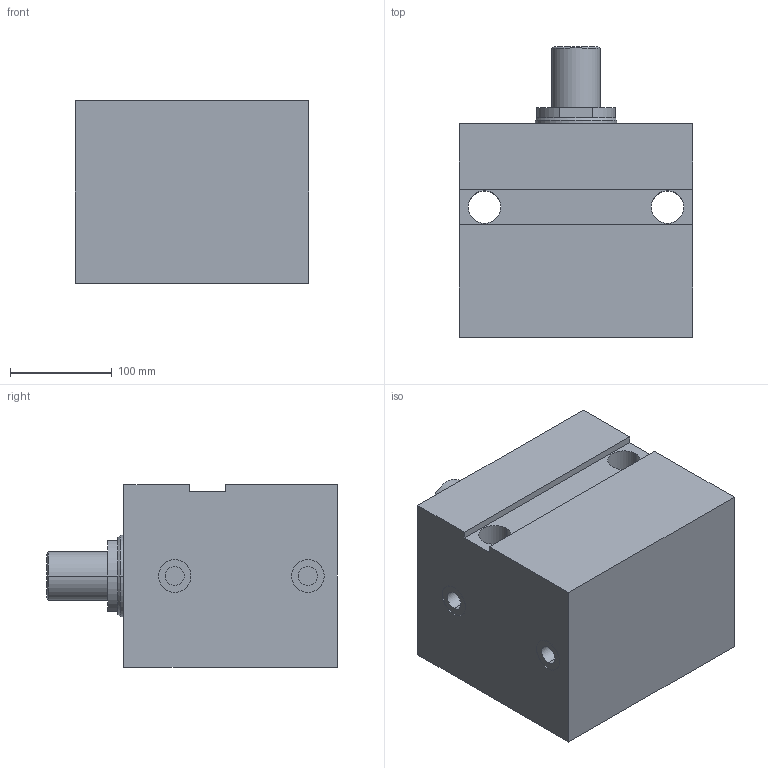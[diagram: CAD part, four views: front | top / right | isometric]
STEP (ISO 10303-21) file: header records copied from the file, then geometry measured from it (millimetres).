
FILE_DESCRIPTION (( 'STEP AP203' ), '1' );
FILE_NAME ('GERMA_Blockzylinder_602-125-100-A.STEP', '2016-04-06T16:07:16', ( '' ), ( '' ), 'SwSTEP 2.0', 'SolidWorks 2015', '' );
FILE_SCHEMA (( 'CONFIG_CONTROL_DESIGN' ));
Length unit declared in the file: millimetre
Products named in the file (3): GH-600-125_GH-602-125-100; Kolben 60x-125_Kolben DU.125-Hub100-AG; GERMA_Blockzylinder_602-125-100-A
Assembly tree (2 placements, depth 2):
  GERMA_Blockzylinder_602-125-100-A
    GH-600-125_GH-602-125-100
    Kolben 60x-125_Kolben DU.125-Hub100-AG
Bounding box: 230 x 286 x 180 mm (x, y, z)
Volume: 7805240 mm3; surface area: 458486.2 mm2
Topology: 2 solids, 2 shells, 69 faces, 150 edges, 93 vertices
Faces by surface type: cylinder 31, plane 26, cone 12
Entity records: 2182 total; most frequent: DIRECTION 367, CARTESIAN_POINT 313, ORIENTED_EDGE 292, AXIS2_PLACEMENT_3D 147, EDGE_CURVE 146, VERTEX_POINT 93, EDGE_LOOP 85, LINE 73
